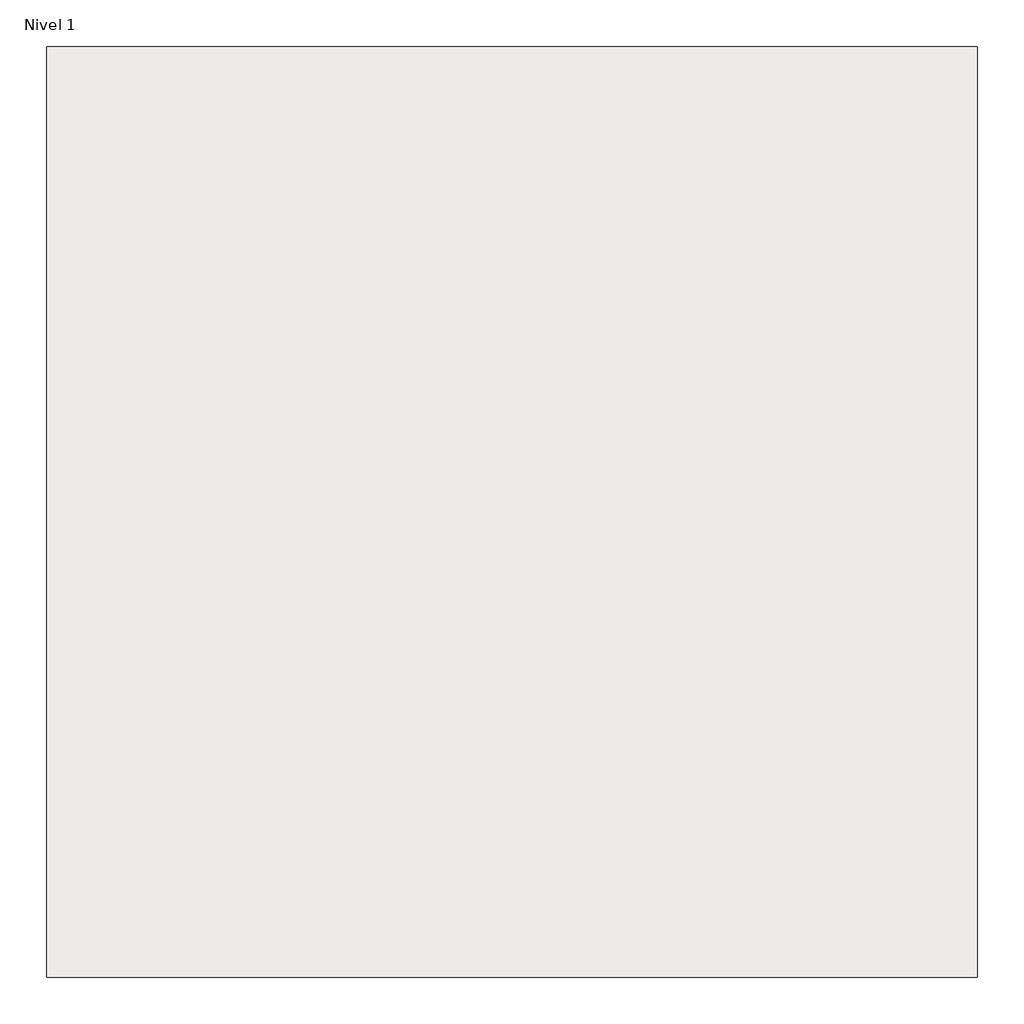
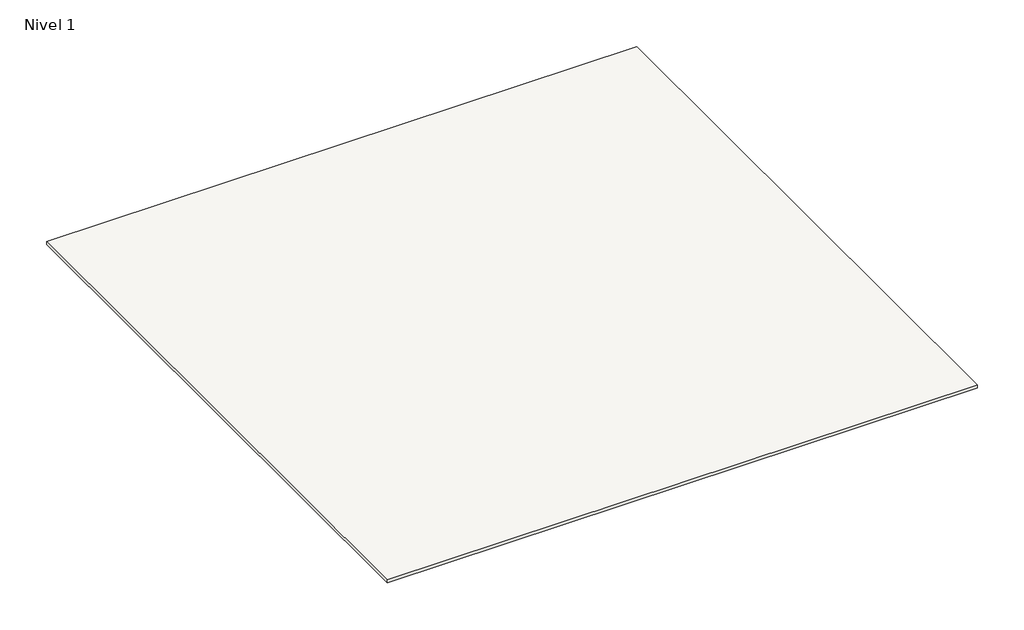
# One storey: 1 slab.
"""IFC4 building model written with IfcOpenShell, lengths in millimetres."""

from ifc_helpers import new_model, si_unit, frame, origin, place, context, project, spatial, polyline, outline, extrude, element, save

model = new_model("IFC4")

# Units and contexts
model_context = context("Model", 3, world=origin())
ifc_project = project(units=[si_unit("LENGTHUNIT", "METRE", prefix="MILLI")], contexts=[model_context])

# Site, building, storey
site = spatial("IfcSite", under=ifc_project)
building = spatial("IfcBuilding", under=site)
storey = spatial("IfcBuildingStorey", under=building, Name="Nivel 1", Elevation=0.0)

# Slab
placement = place(None, origin())
element("IfcSlab", 1, ObjectType="Grespania - San Remo 600x1200 Blanco Natural", at=placement, inside=storey, context=model_context, shape_type="SweptSolid", body=[
    extrude(outline(polyline([(2344.0919037, 6909.6717724), (2344.0919037, 4109.6717724), (-455.9080963, 4109.6717724), (-455.9080963, 6909.6717724), (2344.0919037, 6909.6717724)])), frame((0.0, 0.0, -15.0), z_axis=(0.0, 0.0, 1.0), x_axis=(1.0, 0.0, 0.0)), (0.0, 0.0, 1.0), 15.0),
])

save(model, "model.ifc")
